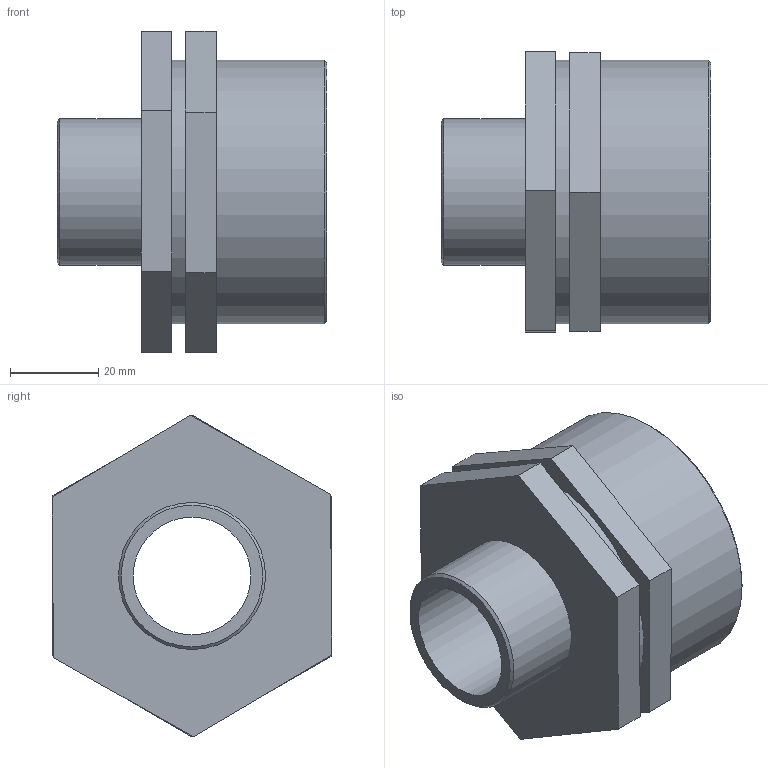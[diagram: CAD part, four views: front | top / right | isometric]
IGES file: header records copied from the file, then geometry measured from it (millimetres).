
Global section: file name: 050605020010_0506050200100A.ipt; native system: Autodesk Inventor 2015; preprocessor: unknown; author: KIM; date: 20170618.093236; units: millimetre
Bounding box: 61 x 63.34 x 72.75 mm (x, y, z)
Volume: 65684.3 mm3; surface area: 24650.7 mm2
Topology: 1 solids, 1 shells, 26 faces, 59 edges, 40 vertices
Faces by surface type: plane 19, cylinder 3, cone 2, revolution 2
Full cylindrical faces by diameter (mm): 33.249 x1, 59.614 x2
